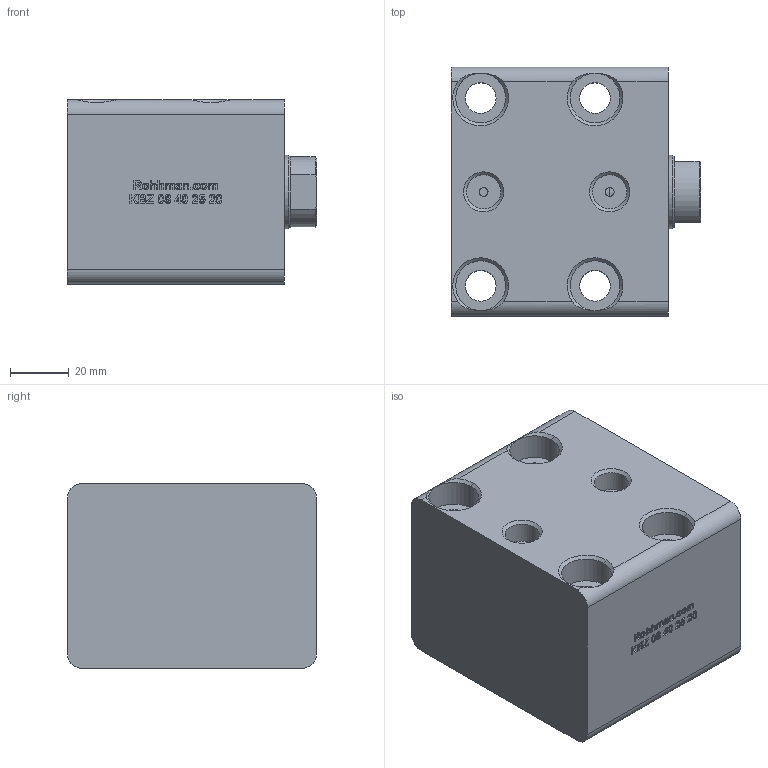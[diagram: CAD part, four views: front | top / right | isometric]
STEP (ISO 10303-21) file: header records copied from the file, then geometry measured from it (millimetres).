
FILE_DESCRIPTION(/* description */ (''),/* implementation_level */ '2;1');
FILE_NAME(/* name */ 'KBZ_08_40_25_20_WEB.step',/* time_stamp */ '2023-09-04T09:32:18+03:00',/* author */ (''),/* organization */ (''),/* preprocessor_version */ 'ST-DEVELOPER v20',/* originating_system */ 'Autodesk Translation Framework v12.9.0.99',/* authorisation */ '');
FILE_SCHEMA (('AUTOMOTIVE_DESIGN { 1 0 10303 214 3 1 1 }'));
Length unit declared in the file: millimetre
Products named in the file (6): KBZ_08_40_25_100_MONTAJ; KAPAK; KAPAK_1; GÖVDE; GÖVDE_1; Ø25 MİL
Assembly tree (5 placements, depth 3):
  KBZ_08_40_25_100_MONTAJ
    KAPAK
      KAPAK_1
    GÖVDE
      GÖVDE_1
    Ø25 MİL
Bounding box: 85 x 85 x 63 mm (x, y, z)
Volume: 322984.7 mm3; surface area: 63524.7 mm2
Topology: 3 solids, 3 shells, 572 faces, 1560 edges, 1032 vertices
Faces by surface type: bspline 332, plane 190, cylinder 28, cone 22
Full cylindrical faces by diameter (mm): 3 x4, 10.5 x4, 11.668 x2, 12.023 x1, 17 x4, 25 x1, 25.5 x1, 40 x1, 45 x2, 55 x2
Entity records: 21391 total; most frequent: CARTESIAN_POINT 8987, ORIENTED_EDGE 3120, EDGE_CURVE 1560, DIRECTION 1470, VERTEX_POINT 1032, LINE 788, VECTOR 788, B_SPLINE_CURVE_WITH_KNOTS 679
